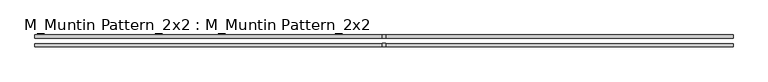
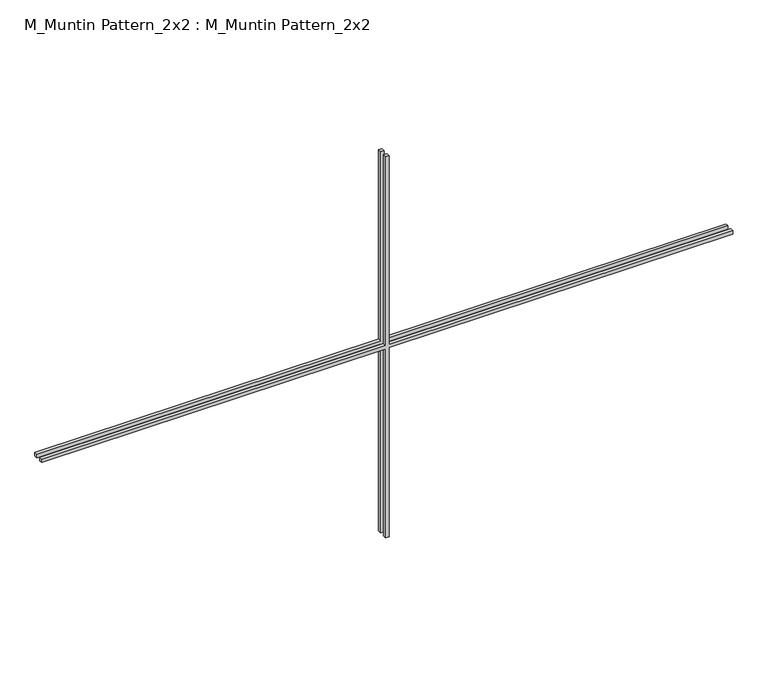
"""IFC4 building model written with IfcOpenShell, lengths in millimetres: proxy geometry, M_Muntin Pattern_2x2 : M_Muntin Pattern_2x2."""

from ifc_helpers import new_model, si_unit, frame, origin, place, context, project, spatial, polyline, outline, extrude, source, transform, mapped, element, save


def m_muntin_pattern_2x2_m_muntin_pattern_2x2_a8ca80a6(model_context):
    return source(origin(), model_context, "Body", "SweptSolid", [
        extrude(outline(polyline([(761.5, -6.35), (761.5, -1294.5476563), (748.8, -1294.5476563), (748.8, -6.35), (0.0, -6.35), (0.0, 6.35), (748.8, 6.35), (748.8, 1294.5476563), (761.5, 1294.5476563), (761.5, 6.35), (1510.3, 6.35), (1510.3, -6.35), (761.5, -6.35)])), frame((0.0, 9.525, 0.0), z_axis=(0.0, 1.0, 0.0), x_axis=(0.0, 0.0, 1.0)), (0.0, 0.0, 1.0), 12.7),
        extrude(outline(polyline([(761.5, -6.35), (761.5, -1294.5476563), (748.8, -1294.5476563), (748.8, -6.35), (0.0, -6.35), (0.0, 6.35), (748.8, 6.35), (748.8, 1294.5476563), (761.5, 1294.5476563), (761.5, 6.35), (1510.3, 6.35), (1510.3, -6.35), (761.5, -6.35)])), frame((0.0, -22.225, 0.0), z_axis=(0.0, 1.0, 0.0), x_axis=(0.0, 0.0, 1.0)), (0.0, 0.0, 1.0), 12.7),
    ])


if __name__ == "__main__":
    model = new_model("IFC4")
    model_context = context("Model", 3, world=origin())
    ifc_project = project(units=[si_unit("LENGTHUNIT", "METRE", prefix="MILLI")], contexts=[model_context])
    site = spatial("IfcSite", under=ifc_project)
    building = spatial("IfcBuilding", under=site)
    placement = place(None, origin())
    m_muntin_pattern_2x2_m_muntin_pattern_2x2_shape = m_muntin_pattern_2x2_m_muntin_pattern_2x2_a8ca80a6(model_context)
    element("IfcBuildingElementProxy", 1, Name="M_Muntin Pattern_2x2 : M_Muntin Pattern_2x2", ObjectType="M_Muntin Pattern_2x2 : M_Muntin Pattern_2x2", at=placement, inside=building, context=model_context, shape_type="MappedRepresentation", body=[
        mapped(m_muntin_pattern_2x2_m_muntin_pattern_2x2_shape, transform((0.0, 0.0, 0.0), x_axis=(1.0, 0.0, 0.0), y_axis=(0.0, 1.0, 0.0), z_axis=(0.0, 0.0, 1.0))),
    ])
    save(model, "model.ifc")
